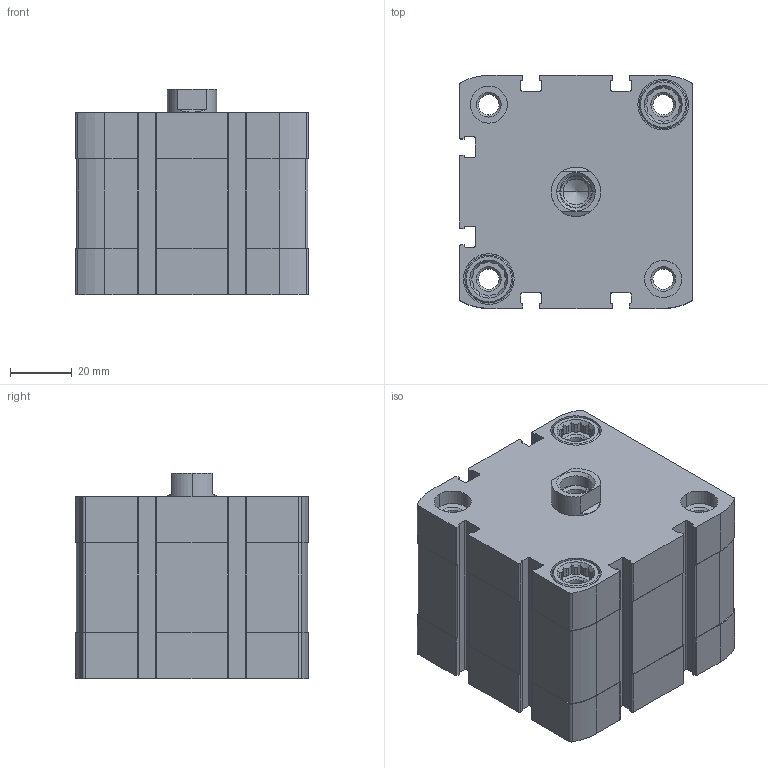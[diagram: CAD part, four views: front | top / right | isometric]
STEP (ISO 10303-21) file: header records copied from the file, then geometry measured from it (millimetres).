
FILE_DESCRIPTION (( 'STEP AP203' ), '1' );
FILE_NAME ('CCN63-10F.STEP', '2017-04-05T15:14:38', ( '' ), ( '' ), 'SwSTEP 2.0', 'SolidWorks 2016', '' );
FILE_SCHEMA (( 'CONFIG_CONTROL_DESIGN' ));
Length unit declared in the file: millimetre
Products named in the file (3): CCN-10---(Z); CCN-10_(KS); CCN63-10F
Assembly tree (2 placements, depth 2):
  CCN63-10F
    CCN-10---(Z)
    CCN-10_(KS)
Bounding box: 75.5 x 75.5 x 66.5 mm (x, y, z)
Volume: 277814.9 mm3; surface area: 65263.6 mm2
Topology: 2 solids, 2 shells, 471 faces, 1274 edges, 837 vertices
Faces by surface type: plane 219, cylinder 210, cone 42
Entity records: 15309 total; most frequent: CARTESIAN_POINT 2879, DIRECTION 2596, ORIENTED_EDGE 2544, EDGE_CURVE 1272, AXIS2_PLACEMENT_3D 946, VERTEX_POINT 837, VECTOR 704, LINE 704
